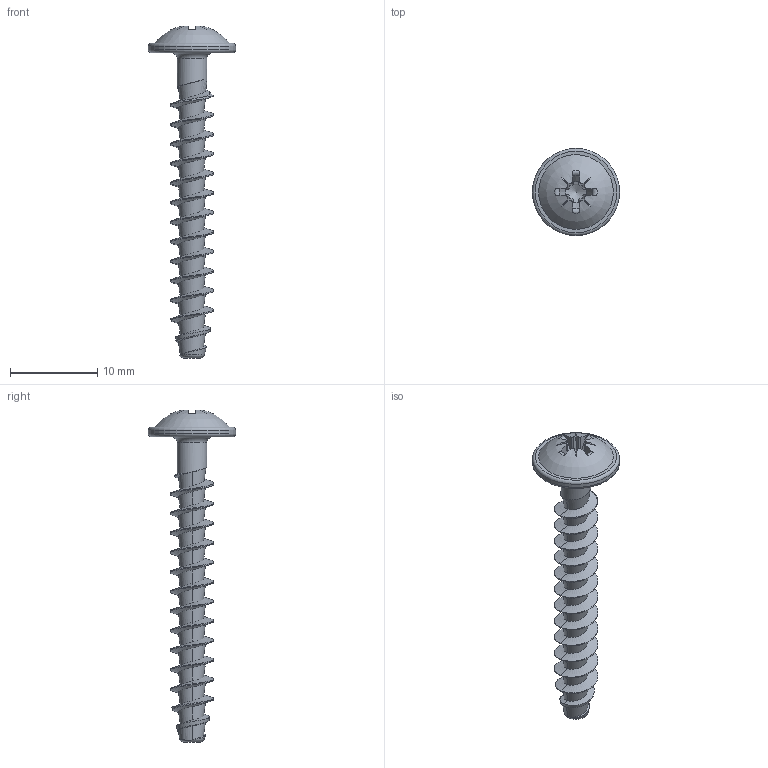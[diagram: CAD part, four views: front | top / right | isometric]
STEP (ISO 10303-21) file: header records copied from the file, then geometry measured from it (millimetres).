
FILE_DESCRIPTION(/* description */ (''),/* implementation_level */ '2;1');
FILE_NAME(/* name */ 'KN1031-Neu-STS-50x35-Z2.step',/* time_stamp */ '2017-10-12T14:10:09+02:00',/* author */ (''),/* organization */ (''),/* preprocessor_version */ 'ST-DEVELOPER v16',/* originating_system */ 'SIEMENS PLM Software NX 10.0',/* authorisation */ '');
FILE_SCHEMA (('AUTOMOTIVE_DESIGN { 1 0 10303 214 3 1 1 1 }'));
Length unit declared in the file: millimetre
Products named in the file (1): KN1031-Neu-STS-50x35-Z2
Bounding box: 10 x 10 x 38.08 mm (x, y, z)
Volume: 437.9 mm3; surface area: 821.9 mm2
Topology: 1 solids, 1 shells, 100 faces, 256 edges, 159 vertices
Faces by surface type: bspline 45, plane 27, cylinder 12, torus 8, cone 7, sphere 1
Full cylindrical faces by diameter (mm): 3.39 x1, 10 x1
Entity records: 5925 total; most frequent: CARTESIAN_POINT 3911, ORIENTED_EDGE 480, DIRECTION 280, EDGE_CURVE 240, VERTEX_POINT 153, B_SPLINE_CURVE_WITH_KNOTS 118, EDGE_LOOP 108, AXIS2_PLACEMENT_3D 103
